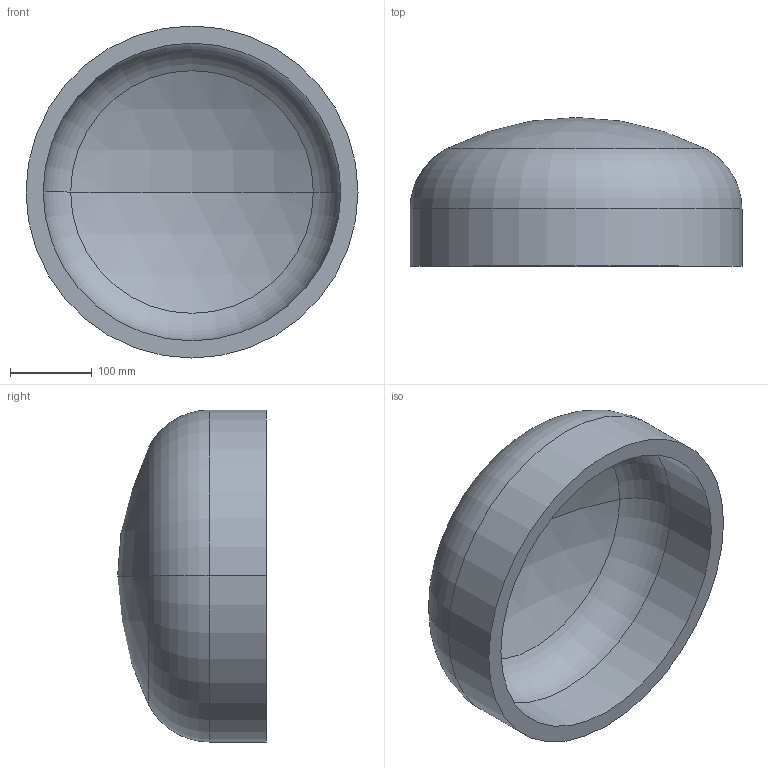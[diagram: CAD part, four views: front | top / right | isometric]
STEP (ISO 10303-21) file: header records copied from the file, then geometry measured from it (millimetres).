
FILE_DESCRIPTION (( 'STEP AP203' ), '1' );
FILE_NAME ('DIN 28013 Korbbogenform_-_Boden DIN 28013 - 406,4 x 70 - I - s=21.step', '2016-07-01T07:49:36', ( '' ), ( '' ), 'SwSTEP 2.0', 'SolidWorks 2013', '' );
FILE_SCHEMA (( 'CONFIG_CONTROL_DESIGN' ));
Length unit declared in the file: millimetre
Products named in the file (1): DIN 28013 Korbbogenform_-_Boden DIN 28013 - 406,4 x 70 - I - s=21
Bounding box: 406.4 x 182.07 x 406.4 mm (x, y, z)
Volume: 5303848.2 mm3; surface area: 531478.1 mm2
Topology: 1 solids, 1 shells, 13 faces, 24 edges, 14 vertices
Faces by surface type: torus 4, cylinder 4, sphere 4, plane 1
Entity records: 407 total; most frequent: DIRECTION 72, CARTESIAN_POINT 52, ORIENTED_EDGE 48, AXIS2_PLACEMENT_3D 34, EDGE_CURVE 24, CIRCLE 20, EDGE_LOOP 14, VERTEX_POINT 14
